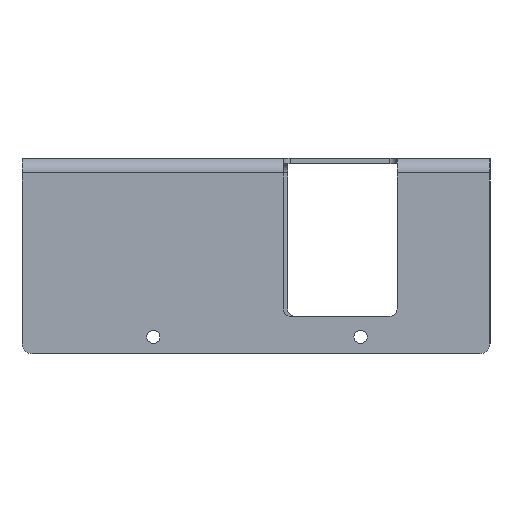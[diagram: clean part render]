
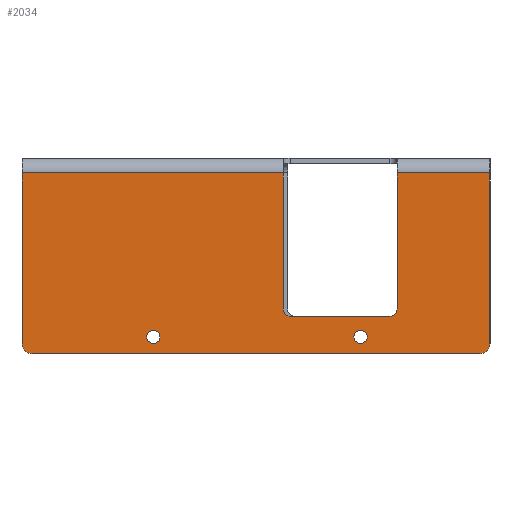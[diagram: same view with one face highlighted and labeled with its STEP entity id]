
A CAD part, left-side view. The second image highlights one B-rep face of the part: STEP entity #2034.
In plain terms, the highlighted planar face has unit normal (-1, 0, 0).
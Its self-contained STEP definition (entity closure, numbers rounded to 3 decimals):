
#296=DIRECTION('',(0.,-1.,0.));
#297=VECTOR('',#296,35.703);
#298=CARTESIAN_POINT('',(67.665,-47.5,20.73));
#299=LINE('',#298,#297);
#304=CARTESIAN_POINT('',(67.665,-110.103,-2.586));
#305=DIRECTION('',(-1.,0.,0.));
#306=DIRECTION('',(0.,0.,-1.));
#307=AXIS2_PLACEMENT_3D('',#304,#305,#306);
#309=DIRECTION('',(0.,-1.,0.));
#310=VECTOR('',#309,61.206);
#311=CARTESIAN_POINT('',(67.665,-48.897,-3.983));
#312=LINE('',#311,#310);
#313=CARTESIAN_POINT('',(67.665,-48.897,-2.586));
#314=DIRECTION('',(-1.,0.,0.));
#315=DIRECTION('',(0.,1.,0.));
#316=AXIS2_PLACEMENT_3D('',#313,#314,#315);
#318=DIRECTION('',(0.,0.,-1.));
#319=VECTOR('',#318,23.316);
#320=CARTESIAN_POINT('',(67.665,-47.5,20.73));
#321=LINE('',#320,#319);
#322=DIRECTION('',(0.,0.,1.));
#323=VECTOR('',#322,18.583);
#324=CARTESIAN_POINT('',(67.665,-83.203,2.147));
#325=LINE('',#324,#323);
#326=CARTESIAN_POINT('',(67.665,-84.203,2.147));
#327=DIRECTION('',(1.,0.,0.));
#328=DIRECTION('',(0.,0.,-1.));
#329=AXIS2_PLACEMENT_3D('',#326,#327,#328);
#331=CARTESIAN_POINT('',(67.665,-97.795,2.147));
#332=DIRECTION('',(1.,0.,0.));
#333=DIRECTION('',(0.,-1.,0.));
#334=AXIS2_PLACEMENT_3D('',#331,#332,#333);
#336=DIRECTION('',(0.,0.,-1.));
#337=VECTOR('',#336,18.583);
#338=CARTESIAN_POINT('',(67.665,-98.795,20.73));
#339=LINE('',#338,#337);
#340=CARTESIAN_POINT('',(67.665,-93.794,-1.687));
#341=DIRECTION('',(1.,0.,0.));
#342=DIRECTION('',(0.,0.,-1.));
#343=AXIS2_PLACEMENT_3D('',#340,#341,#342);
#345=CARTESIAN_POINT('',(67.665,-93.794,-1.687));
#346=DIRECTION('',(1.,0.,0.));
#347=DIRECTION('',(0.,0.,1.));
#348=AXIS2_PLACEMENT_3D('',#345,#346,#347);
#350=CARTESIAN_POINT('',(67.665,-65.456,-1.687));
#351=DIRECTION('',(1.,0.,0.));
#352=DIRECTION('',(0.,0.,-1.));
#353=AXIS2_PLACEMENT_3D('',#350,#351,#352);
#355=CARTESIAN_POINT('',(67.665,-65.456,-1.687));
#356=DIRECTION('',(1.,0.,0.));
#357=DIRECTION('',(0.,0.,1.));
#358=AXIS2_PLACEMENT_3D('',#355,#356,#357);
#364=DIRECTION('',(0.,-1.,0.));
#365=VECTOR('',#364,12.705);
#366=CARTESIAN_POINT('',(67.665,-98.795,20.73));
#367=LINE('',#366,#365);
#918=DIRECTION('',(0.,-1.,0.));
#919=VECTOR('',#918,13.591);
#920=CARTESIAN_POINT('',(67.665,-84.203,1.147));
#921=LINE('',#920,#919);
#988=DIRECTION('',(0.,0.,-1.));
#989=VECTOR('',#988,23.316);
#990=CARTESIAN_POINT('',(67.665,-111.5,20.73));
#991=LINE('',#990,#989);
#1498=CARTESIAN_POINT('',(67.665,-98.795,20.73));
#1499=CARTESIAN_POINT('',(67.665,-111.5,20.73));
#1500=VERTEX_POINT('',#1498);
#1501=VERTEX_POINT('',#1499);
#1502=CARTESIAN_POINT('',(67.665,-111.5,-2.586));
#1503=VERTEX_POINT('',#1502);
#1504=CARTESIAN_POINT('',(67.665,-110.103,-3.983));
#1505=VERTEX_POINT('',#1504);
#1506=CARTESIAN_POINT('',(67.665,-48.897,-3.983));
#1507=VERTEX_POINT('',#1506);
#1508=CARTESIAN_POINT('',(67.665,-47.5,-2.586));
#1509=VERTEX_POINT('',#1508);
#1510=CARTESIAN_POINT('',(67.665,-47.5,20.73));
#1511=VERTEX_POINT('',#1510);
#1512=CARTESIAN_POINT('',(67.665,-83.203,20.73));
#1513=VERTEX_POINT('',#1512);
#1514=CARTESIAN_POINT('',(67.665,-83.203,2.147));
#1515=VERTEX_POINT('',#1514);
#1516=CARTESIAN_POINT('',(67.665,-84.203,1.147));
#1517=VERTEX_POINT('',#1516);
#1518=CARTESIAN_POINT('',(67.665,-97.795,1.147));
#1519=VERTEX_POINT('',#1518);
#1520=CARTESIAN_POINT('',(67.665,-98.795,2.147));
#1521=VERTEX_POINT('',#1520);
#1522=CARTESIAN_POINT('',(67.665,-93.794,
-2.587));
#1523=CARTESIAN_POINT('',(67.665,-93.794,
-0.787));
#1524=VERTEX_POINT('',#1522);
#1525=VERTEX_POINT('',#1523);
#1526=CARTESIAN_POINT('',(67.665,-65.456,
-2.587));
#1527=CARTESIAN_POINT('',(67.665,-65.456,
-0.787));
#1528=VERTEX_POINT('',#1526);
#1529=VERTEX_POINT('',#1527);
#1992=CARTESIAN_POINT('',(67.665,-111.5,-3.983));
#1993=DIRECTION('',(-1.,0.,0.));
#1994=DIRECTION('',(0.,0.,1.));
#1995=AXIS2_PLACEMENT_3D('',#1992,#1993,#1994);
#1996=PLANE('',#1995);
#1998=ORIENTED_EDGE('',*,*,#1997,.T.);
#2000=ORIENTED_EDGE('',*,*,#1999,.T.);
#2002=ORIENTED_EDGE('',*,*,#2001,.F.);
#2004=ORIENTED_EDGE('',*,*,#2003,.F.);
#2006=ORIENTED_EDGE('',*,*,#2005,.F.);
#2008=ORIENTED_EDGE('',*,*,#2007,.F.);
#2009=ORIENTED_EDGE('',*,*,#1983,.T.);
#2011=ORIENTED_EDGE('',*,*,#2010,.F.);
#2013=ORIENTED_EDGE('',*,*,#2012,.F.);
#2015=ORIENTED_EDGE('',*,*,#2014,.T.);
#2017=ORIENTED_EDGE('',*,*,#2016,.F.);
#2019=ORIENTED_EDGE('',*,*,#2018,.F.);
#2020=EDGE_LOOP('',(#1998,#2000,#2002,#2004,#2006,#2008,#2009,#2011,#2013,#2015,
#2017,#2019));
#2021=FACE_OUTER_BOUND('',#2020,.F.);
#2023=ORIENTED_EDGE('',*,*,#2022,.F.);
#2025=ORIENTED_EDGE('',*,*,#2024,.F.);
#2026=EDGE_LOOP('',(#2023,#2025));
#2027=FACE_BOUND('',#2026,.F.);
#2029=ORIENTED_EDGE('',*,*,#2028,.F.);
#2031=ORIENTED_EDGE('',*,*,#2030,.F.);
#2032=EDGE_LOOP('',(#2029,#2031));
#2033=FACE_BOUND('',#2032,.F.);
#2034=ADVANCED_FACE('',(#2021,#2027,#2033),#1996,.T.);
#308=CIRCLE('',#307,1.397);
#317=CIRCLE('',#316,1.397);
#330=CIRCLE('',#329,1.);
#335=CIRCLE('',#334,1.);
#344=CIRCLE('',#343,0.9);
#349=CIRCLE('',#348,0.9);
#354=CIRCLE('',#353,0.9);
#359=CIRCLE('',#358,0.9);
#1983=EDGE_CURVE('',#1511,#1513,#299,.T.);
#1997=EDGE_CURVE('',#1500,#1501,#367,.T.);
#1999=EDGE_CURVE('',#1501,#1503,#991,.T.);
#2001=EDGE_CURVE('',#1505,#1503,#308,.T.);
#2003=EDGE_CURVE('',#1507,#1505,#312,.T.);
#2005=EDGE_CURVE('',#1509,#1507,#317,.T.);
#2007=EDGE_CURVE('',#1511,#1509,#321,.T.);
#2010=EDGE_CURVE('',#1515,#1513,#325,.T.);
#2012=EDGE_CURVE('',#1517,#1515,#330,.T.);
#2014=EDGE_CURVE('',#1517,#1519,#921,.T.);
#2016=EDGE_CURVE('',#1521,#1519,#335,.T.);
#2018=EDGE_CURVE('',#1500,#1521,#339,.T.);
#2022=EDGE_CURVE('',#1524,#1525,#344,.T.);
#2024=EDGE_CURVE('',#1525,#1524,#349,.T.);
#2028=EDGE_CURVE('',#1528,#1529,#354,.T.);
#2030=EDGE_CURVE('',#1529,#1528,#359,.T.);
